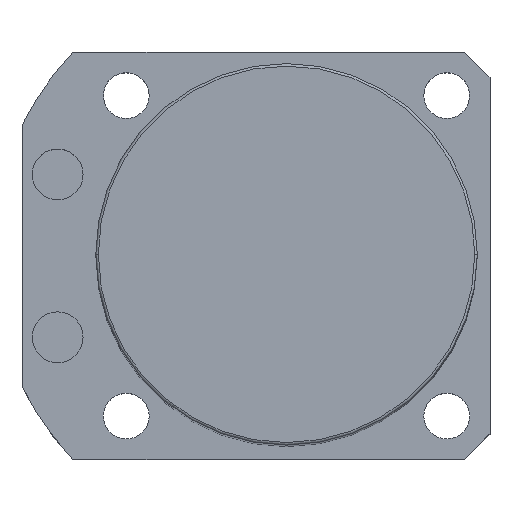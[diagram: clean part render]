
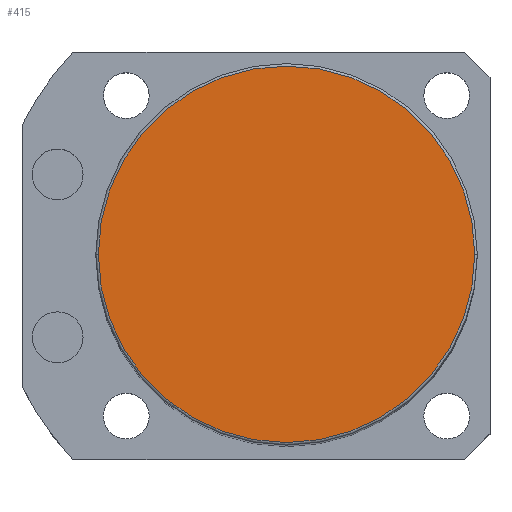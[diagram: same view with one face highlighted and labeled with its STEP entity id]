
A CAD part, top view. The second image highlights one B-rep face of the part: STEP entity #415.
In plain terms, the highlighted planar face has unit normal (0, 0, 1).
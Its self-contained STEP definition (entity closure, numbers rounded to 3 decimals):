
#219 = PLANE ( 'NONE',  #1945 ) ;
#337 = CARTESIAN_POINT ( 'NONE',  ( 37., 0., 190.5 ) ) ;
#415 = ADVANCED_FACE ( 'NONE', ( #6255 ), #219, .T. ) ;
#988 = CIRCLE ( 'NONE', #6428, 37. ) ;
#1064 = VERTEX_POINT ( 'NONE', #3606 ) ;
#1337 = ORIENTED_EDGE ( 'NONE', *, *, #5167, .T. ) ;
#1704 = VERTEX_POINT ( 'NONE', #337 ) ;
#1790 = DIRECTION ( 'NONE',  ( 1., 0., 0. ) ) ;
#1945 = AXIS2_PLACEMENT_3D ( 'NONE', #3792, #2714, #2236 ) ;
#2123 = CARTESIAN_POINT ( 'NONE',  ( 0., 0., 190.5 ) ) ;
#2167 = DIRECTION ( 'NONE',  ( 0., 0., 1. ) ) ;
#2236 = DIRECTION ( 'NONE',  ( 1., 0., 0. ) ) ;
#2714 = DIRECTION ( 'NONE',  ( 0., 0., 1. ) ) ;
#3052 = ORIENTED_EDGE ( 'NONE', *, *, #3784, .T. ) ;
#3331 = EDGE_LOOP ( 'NONE', ( #3052, #1337 ) ) ;
#3606 = CARTESIAN_POINT ( 'NONE',  ( -37., 0., 190.5 ) ) ;
#3784 = EDGE_CURVE ( 'NONE', #1704, #1064, #5854, .T. ) ;
#3792 = CARTESIAN_POINT ( 'NONE',  ( 0., 0., 190.5 ) ) ;
#3909 = DIRECTION ( 'NONE',  ( 0., 0., 1. ) ) ;
#4883 = CARTESIAN_POINT ( 'NONE',  ( 0., 0., 190.5 ) ) ;
#5167 = EDGE_CURVE ( 'NONE', #1064, #1704, #988, .T. ) ;
#5395 = AXIS2_PLACEMENT_3D ( 'NONE', #4883, #3909, #1790 ) ;
#5854 = CIRCLE ( 'NONE', #5395, 37. ) ;
#6219 = DIRECTION ( 'NONE',  ( 1., 0., 0. ) ) ;
#6255 = FACE_OUTER_BOUND ( 'NONE', #3331, .T. ) ;
#6428 = AXIS2_PLACEMENT_3D ( 'NONE', #2123, #2167, #6219 ) ;
